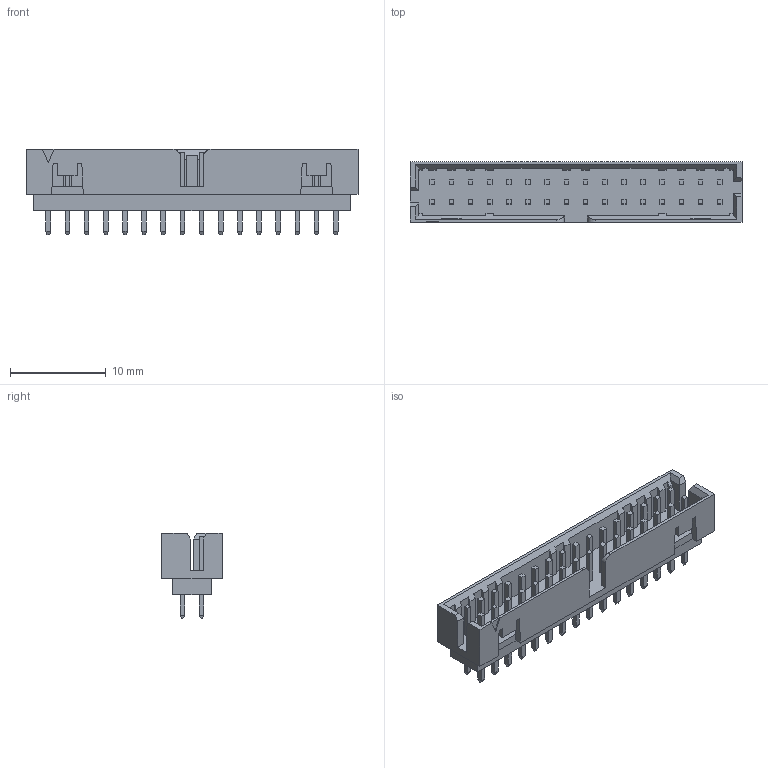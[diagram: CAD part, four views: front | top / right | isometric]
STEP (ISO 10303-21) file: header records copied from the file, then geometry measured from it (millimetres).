
FILE_DESCRIPTION(/* description */ (''),/* implementation_level */ '2;1');
FILE_NAME(/* name */ '878313221wbm000_01_214.stp',/* time_stamp */ '2022-04-11T13:02:01+06:00',/* author */ (''),/* organization */ (''),/* preprocessor_version */ 'ST-DEVELOPER v16.7',/* originating_system */ 'SIEMENS PLM Software NX 1919',/* authorisation */ '');
FILE_SCHEMA (('AUTOMOTIVE_DESIGN { 1 0 10303 214 3 1 1 1 }'));
Length unit declared in the file: millimetre
Products named in the file (1): 878313221wbm000_01
Bounding box: 34.65 x 6.3 x 8.9 mm (x, y, z)
Volume: 630.7 mm3; surface area: 1588.4 mm2
Topology: 1 solids, 1 shells, 575 faces, 1396 edges, 884 vertices
Faces by surface type: plane 573, cylinder 2
Entity records: 16308 total; most frequent: CARTESIAN_POINT 2856, ORIENTED_EDGE 2792, DIRECTION 2554, EDGE_CURVE 1396, LINE 1390, VECTOR 1390, VERTEX_POINT 884, EDGE_LOOP 640
